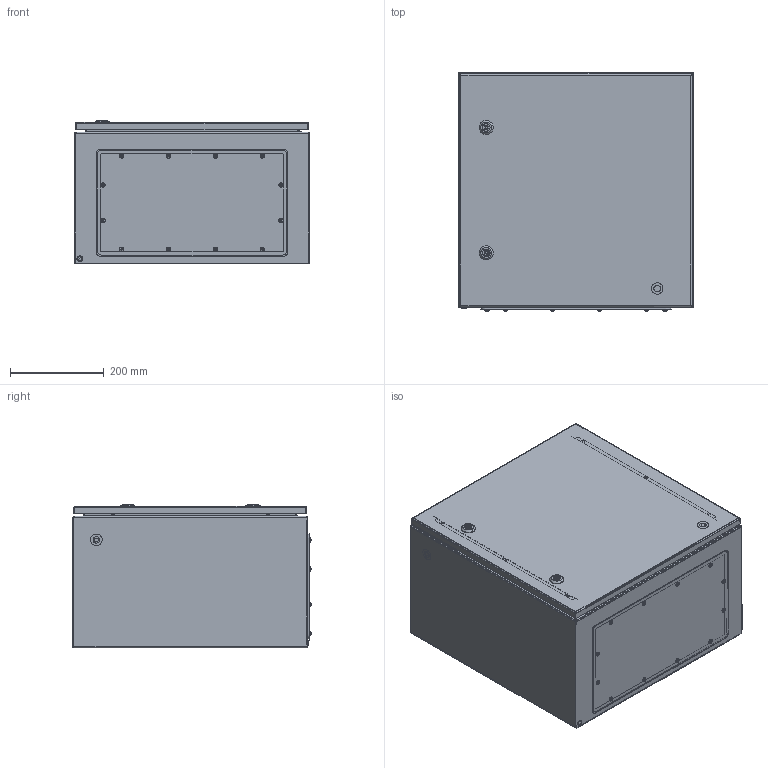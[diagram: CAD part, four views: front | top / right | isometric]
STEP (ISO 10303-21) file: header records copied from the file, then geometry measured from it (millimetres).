
FILE_DESCRIPTION (( 'STEP AP214' ), '1' );
FILE_NAME ('CCS 50.50.30 仃圄 觐祜嚓蝽.STEP', '2022-09-30T09:43:46', ( '' ), ( '' ), 'SwSTEP 2.0', 'SolidWorks 2019', '' );
FILE_SCHEMA (( 'AUTOMOTIVE_DESIGN' ));
Length unit declared in the file: millimetre
Products named in the file (1): CCS 50.50.30 仃圄 觐祜嚓蝽
Bounding box: 500 x 507.22 x 306.2 mm (x, y, z)
Volume: 2211409.6 mm3; surface area: 2959516.3 mm2
Topology: 58 solids, 58 shells, 1984 faces, 4798 edges, 2993 vertices
Faces by surface type: plane 1093, cylinder 468, cone 219, bspline 114, torus 65, sphere 25
Full cylindrical faces by diameter (mm): 3.1 x8, 3.2 x12, 3.5 x22, 4.4 x4, 4.8 x12, 5 x8, 5.3 x2, 6 x4, 6.4 x4, 6.5 x2, 6.6 x1, 6.8 x4, 7 x12, 8 x9, 9 x12, 9.3 x1, 9.5 x2, 9.6 x2, 10 x2, 11 x1, 12 x1, 13 x1, 14 x14, 24.7 x7
Entity records: 107675 total; most frequent: CARTESIAN_POINT 40500, DIRECTION 9097, ORIENTED_EDGE 8982, EDGE_CURVE 4491, AXIS2_PLACEMENT_3D 3325, VERTEX_POINT 2962, EDGE_LOOP 2529, VECTOR 2447
